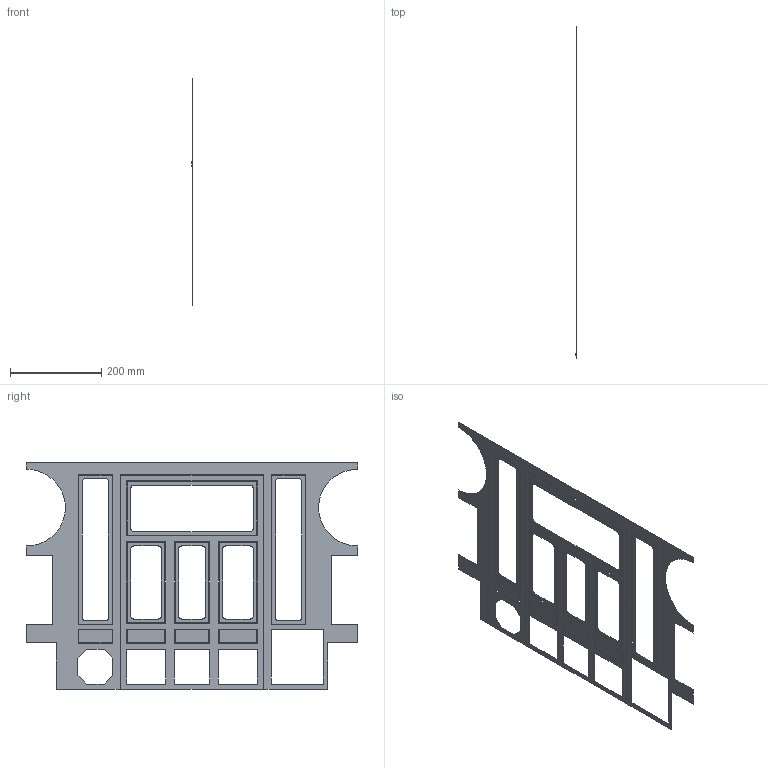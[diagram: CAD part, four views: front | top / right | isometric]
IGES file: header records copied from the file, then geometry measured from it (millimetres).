
Start section: 3D InterOp IGES (Version 21 0 3), Spatial Corp. Copyright (c) 1999-2007.
Global section: file name: CSR SKIN Outer Rear ANH - 20140501_Surface.igs; native system: Spatial Corp.; preprocessor: 3D InterOp GENERIC/IGES 3.0; author: Noname; organization: Noname; date: 20140519.173012; units: inch
Bounding box: 0 x 728.14 x 496.89 mm (x, y, z)
Surface area: 167102.3 mm2 (no closed solid volume)
Topology: 0 solids, 0 shells, 12 faces, 183 edges, 183 vertices
Faces by surface type: extrusion 12
